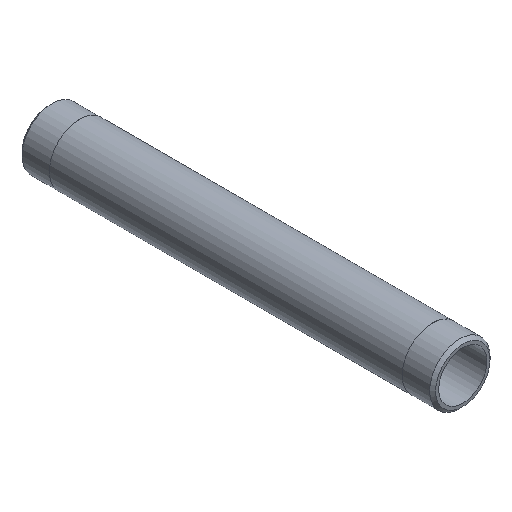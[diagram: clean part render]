
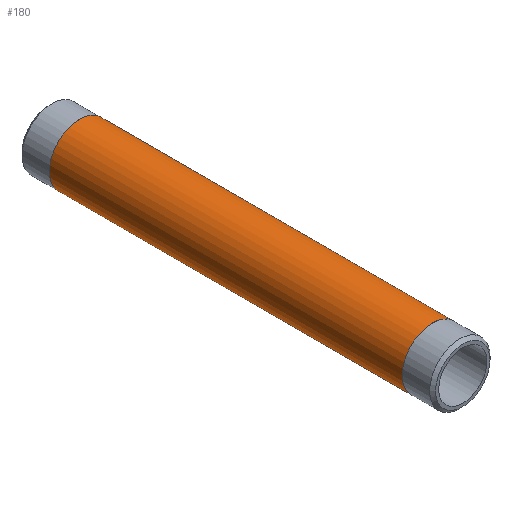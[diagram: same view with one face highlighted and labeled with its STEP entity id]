
A CAD part, isometric view. The second image highlights one B-rep face of the part: STEP entity #180.
In plain terms, the highlighted cylindrical face has radius 16.701 mm (diameter 33.401 mm), a full revolution.
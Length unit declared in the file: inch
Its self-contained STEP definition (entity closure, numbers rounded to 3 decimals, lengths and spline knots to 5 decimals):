
#25=CYLINDRICAL_SURFACE('',#220,0.6575);
#34=FACE_OUTER_BOUND('',#47,.T.);
#47=EDGE_LOOP('',(#155,#156,#157,#158,#159,#160));
#55=LINE('',#338,#61);
#61=VECTOR('',#283,0.6575);
#77=CIRCLE('',#218,0.6575);
#78=CIRCLE('',#219,0.6575);
#79=CIRCLE('',#221,0.6575);
#80=CIRCLE('',#222,0.6575);
#95=VERTEX_POINT('',#329);
#96=VERTEX_POINT('',#330);
#97=VERTEX_POINT('',#334);
#98=VERTEX_POINT('',#335);
#117=EDGE_CURVE('',#95,#96,#77,.T.);
#118=EDGE_CURVE('',#96,#95,#78,.T.);
#119=EDGE_CURVE('',#97,#98,#79,.T.);
#120=EDGE_CURVE('',#98,#97,#80,.T.);
#121=EDGE_CURVE('',#98,#96,#55,.T.);
#155=ORIENTED_EDGE('',*,*,#119,.F.);
#156=ORIENTED_EDGE('',*,*,#120,.F.);
#157=ORIENTED_EDGE('',*,*,#121,.T.);
#158=ORIENTED_EDGE('',*,*,#118,.T.);
#159=ORIENTED_EDGE('',*,*,#117,.T.);
#160=ORIENTED_EDGE('',*,*,#121,.F.);
#180=ADVANCED_FACE('',(#34),#25,.T.);
#218=AXIS2_PLACEMENT_3D('',#331,#273,#274);
#219=AXIS2_PLACEMENT_3D('',#332,#275,#276);
#220=AXIS2_PLACEMENT_3D('',#333,#277,#278);
#221=AXIS2_PLACEMENT_3D('',#336,#279,#280);
#222=AXIS2_PLACEMENT_3D('',#337,#281,#282);
#273=DIRECTION('center_axis',(0.,-1.,0.));
#274=DIRECTION('ref_axis',(1.,0.,0.));
#275=DIRECTION('center_axis',(0.,-1.,0.));
#276=DIRECTION('ref_axis',(1.,0.,0.));
#277=DIRECTION('center_axis',(0.,-1.,0.));
#278=DIRECTION('ref_axis',(0.,0.,-1.));
#279=DIRECTION('center_axis',(0.,-1.,0.));
#280=DIRECTION('ref_axis',(1.,0.,0.));
#281=DIRECTION('center_axis',(0.,-1.,0.));
#282=DIRECTION('ref_axis',(1.,0.,0.));
#283=DIRECTION('',(0.,1.,0.));
#329=CARTESIAN_POINT('',(0.,8.339,-0.6575));
#330=CARTESIAN_POINT('',(0.,8.339,0.6575));
#331=CARTESIAN_POINT('Origin',(0.,8.339,0.));
#332=CARTESIAN_POINT('Origin',(0.,8.339,0.));
#333=CARTESIAN_POINT('Origin',(0.,4.5,0.));
#334=CARTESIAN_POINT('',(0.,0.661,-0.6575));
#335=CARTESIAN_POINT('',(0.,0.661,0.6575));
#336=CARTESIAN_POINT('Origin',(0.,0.661,0.));
#337=CARTESIAN_POINT('Origin',(0.,0.661,0.));
#338=CARTESIAN_POINT('',(0.,4.5,0.6575));
